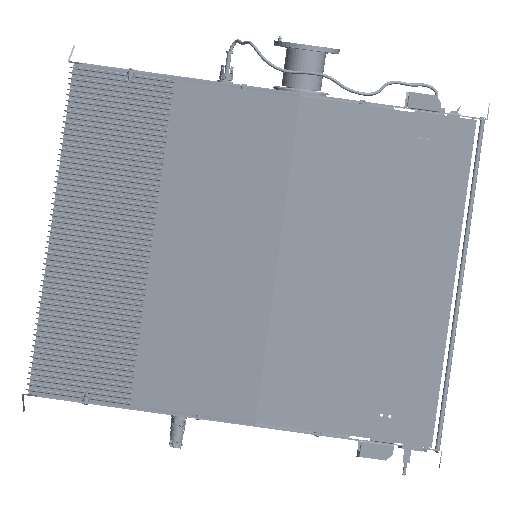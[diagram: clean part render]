
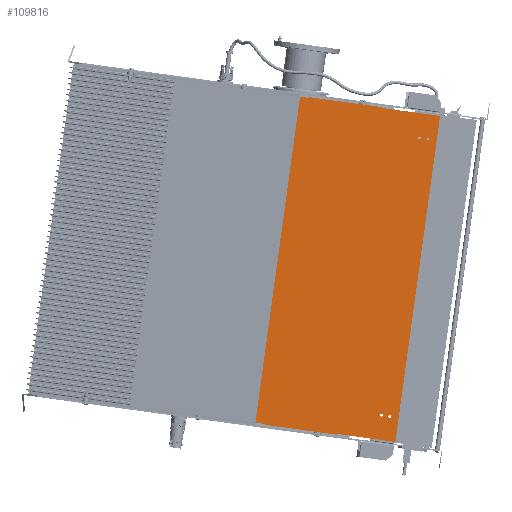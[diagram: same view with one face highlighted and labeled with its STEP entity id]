
A CAD part, left-side view. The second image highlights one B-rep face of the part: STEP entity #109816.
In plain terms, the highlighted planar face has unit normal (-1, 0, 0).
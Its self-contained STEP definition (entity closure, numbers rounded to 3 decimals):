
#3164=ELLIPSE('',#126035,0.109,0.109);
#3165=ELLIPSE('',#126037,0.109,0.109);
#3166=ELLIPSE('',#126039,0.109,0.109);
#3167=ELLIPSE('',#126041,0.109,0.109);
#5911=PLANE('',#126044);
#13274=LINE('',#253818,#22187);
#13282=LINE('',#253840,#22195);
#13292=LINE('',#253866,#22205);
#13300=LINE('',#253882,#22213);
#13309=LINE('',#253919,#22222);
#13312=LINE('',#253925,#22225);
#13313=LINE('',#253927,#22226);
#13314=LINE('',#253933,#22227);
#13315=LINE('',#253938,#22228);
#13316=LINE('',#253939,#22229);
#22187=VECTOR('',#146115,39.37);
#22195=VECTOR('',#146131,39.37);
#22205=VECTOR('',#146149,39.37);
#22213=VECTOR('',#146159,39.37);
#22222=VECTOR('',#146196,39.37);
#22225=VECTOR('',#146201,39.37);
#22226=VECTOR('',#146204,39.37);
#22227=VECTOR('',#146205,39.37);
#22228=VECTOR('',#146206,39.37);
#22229=VECTOR('',#146207,39.37);
#25597=B_SPLINE_CURVE_WITH_KNOTS('',3,(#253928,#253929,#253930,#253931),
 .UNSPECIFIED.,.F.,.F.,(4,4),(0.,1.),.UNSPECIFIED.);
#25598=B_SPLINE_CURVE_WITH_KNOTS('',3,(#253934,#253935,#253936,#253937),
 .UNSPECIFIED.,.F.,.F.,(4,4),(0.,1.),.UNSPECIFIED.);
#49911=ORIENTED_EDGE('',*,*,#71389,.T.);
#49912=ORIENTED_EDGE('',*,*,#71390,.T.);
#49913=ORIENTED_EDGE('',*,*,#71391,.T.);
#49914=ORIENTED_EDGE('',*,*,#71392,.T.);
#49915=ORIENTED_EDGE('',*,*,#71380,.T.);
#49916=ORIENTED_EDGE('',*,*,#71401,.T.);
#49917=ORIENTED_EDGE('',*,*,#71350,.T.);
#49918=ORIENTED_EDGE('',*,*,#71402,.T.);
#49919=ORIENTED_EDGE('',*,*,#71403,.T.);
#49920=ORIENTED_EDGE('',*,*,#71400,.T.);
#49921=ORIENTED_EDGE('',*,*,#71372,.T.);
#49922=ORIENTED_EDGE('',*,*,#71404,.F.);
#49923=ORIENTED_EDGE('',*,*,#71360,.F.);
#49924=ORIENTED_EDGE('',*,*,#71405,.F.);
#49925=ORIENTED_EDGE('',*,*,#71397,.T.);
#49926=ORIENTED_EDGE('',*,*,#71406,.F.);
#71350=EDGE_CURVE('',#85175,#85176,#13274,.T.);
#71360=EDGE_CURVE('',#85185,#85186,#13282,.T.);
#71372=EDGE_CURVE('',#85197,#85196,#13292,.T.);
#71380=EDGE_CURVE('',#85199,#85203,#13300,.T.);
#71389=EDGE_CURVE('',#85210,#85210,#3164,.F.);
#71390=EDGE_CURVE('',#85211,#85211,#3165,.F.);
#71391=EDGE_CURVE('',#85212,#85212,#3166,.F.);
#71392=EDGE_CURVE('',#85213,#85213,#3167,.F.);
#71397=EDGE_CURVE('',#85218,#85217,#13309,.T.);
#71400=EDGE_CURVE('',#85219,#85197,#13312,.T.);
#71401=EDGE_CURVE('',#85203,#85175,#13313,.T.);
#71402=EDGE_CURVE('',#85176,#85220,#25597,.T.);
#71403=EDGE_CURVE('',#85220,#85219,#13314,.T.);
#71404=EDGE_CURVE('',#85186,#85196,#25598,.T.);
#71405=EDGE_CURVE('',#85218,#85185,#13315,.T.);
#71406=EDGE_CURVE('',#85199,#85217,#13316,.T.);
#85175=VERTEX_POINT('',#253819);
#85176=VERTEX_POINT('',#253820);
#85185=VERTEX_POINT('',#253841);
#85186=VERTEX_POINT('',#253842);
#85196=VERTEX_POINT('',#253865);
#85197=VERTEX_POINT('',#253867);
#85199=VERTEX_POINT('',#253872);
#85203=VERTEX_POINT('',#253881);
#85210=VERTEX_POINT('',#253900);
#85211=VERTEX_POINT('',#253903);
#85212=VERTEX_POINT('',#253906);
#85213=VERTEX_POINT('',#253909);
#85217=VERTEX_POINT('',#253918);
#85218=VERTEX_POINT('',#253920);
#85219=VERTEX_POINT('',#253924);
#85220=VERTEX_POINT('',#253932);
#95910=EDGE_LOOP('',(#49911));
#95911=EDGE_LOOP('',(#49912));
#95912=EDGE_LOOP('',(#49913));
#95913=EDGE_LOOP('',(#49914));
#95914=EDGE_LOOP('',(#49915,#49916,#49917,#49918,#49919,#49920,#49921,#49922,
#49923,#49924,#49925,#49926));
#102536=FACE_BOUND('',#95910,.T.);
#102537=FACE_BOUND('',#95911,.T.);
#102538=FACE_BOUND('',#95912,.T.);
#102539=FACE_BOUND('',#95913,.T.);
#102540=FACE_BOUND('',#95914,.T.);
#109816=ADVANCED_FACE('',(#102536,#102537,#102538,#102539,#102540),#5911,
 .T.);
#126035=AXIS2_PLACEMENT_3D('',#253899,#146176,#146177);
#126037=AXIS2_PLACEMENT_3D('',#253902,#146180,#146181);
#126039=AXIS2_PLACEMENT_3D('',#253905,#146184,#146185);
#126041=AXIS2_PLACEMENT_3D('',#253908,#146188,#146189);
#126044=AXIS2_PLACEMENT_3D('',#253926,#146202,#146203);
#146115=DIRECTION('',(0.,-0.991,-0.136));
#146131=DIRECTION('',(0.,-0.991,-0.136));
#146149=DIRECTION('',(0.,0.991,0.136));
#146159=DIRECTION('',(0.,-0.991,-0.136));
#146176=DIRECTION('',(-1.,0.,0.));
#146177=DIRECTION('',(0.,0.991,0.136));
#146180=DIRECTION('',(-1.,0.,0.));
#146181=DIRECTION('',(0.,0.991,0.136));
#146184=DIRECTION('',(-1.,0.,0.));
#146185=DIRECTION('',(0.,0.991,0.136));
#146188=DIRECTION('',(-1.,0.,0.));
#146189=DIRECTION('',(0.,0.991,0.136));
#146196=DIRECTION('',(0.,0.991,0.136));
#146201=DIRECTION('',(0.,-0.136,0.991));
#146202=DIRECTION('',(-1.,0.,0.));
#146203=DIRECTION('',(0.,-0.991,-0.136));
#146204=DIRECTION('',(0.,0.136,-0.991));
#146205=DIRECTION('',(0.,-0.991,-0.136));
#146206=DIRECTION('',(0.,-0.136,0.991));
#146207=DIRECTION('',(0.,-0.136,0.991));
#253818=CARTESIAN_POINT('',(-0.446,12.005,1.683));
#253819=CARTESIAN_POINT('',(-0.446,12.005,1.683));
#253820=CARTESIAN_POINT('',(-0.446,6.309,0.902));
#253840=CARTESIAN_POINT('',(-0.446,8.469,27.442));
#253841=CARTESIAN_POINT('',(-0.446,8.469,27.442));
#253842=CARTESIAN_POINT('',(-0.446,2.773,26.66));
#253865=CARTESIAN_POINT('',(-0.446,2.782,26.598));
#253866=CARTESIAN_POINT('',(-0.446,-1.803,25.969));
#253867=CARTESIAN_POINT('',(-0.446,-1.803,25.969));
#253872=CARTESIAN_POINT('',(-0.446,12.727,1.846));
#253881=CARTESIAN_POINT('',(-0.446,11.996,1.745));
#253882=CARTESIAN_POINT('',(-0.446,12.727,1.846));
#253899=CARTESIAN_POINT('',(-0.446,-0.199,24.233));
#253900=CARTESIAN_POINT('',(-0.446,-0.091,24.248));
#253902=CARTESIAN_POINT('',(-0.446,-0.843,24.145));
#253903=CARTESIAN_POINT('',(-0.446,-0.735,24.16));
#253905=CARTESIAN_POINT('',(-0.446,2.792,2.438));
#253906=CARTESIAN_POINT('',(-0.446,2.901,2.453));
#253908=CARTESIAN_POINT('',(-0.446,2.148,2.349));
#253909=CARTESIAN_POINT('',(-0.446,2.257,2.364));
#253918=CARTESIAN_POINT('',(-0.446,9.208,27.48));
#253919=CARTESIAN_POINT('',(-0.446,-1.803,25.969));
#253920=CARTESIAN_POINT('',(-0.446,8.477,27.38));
#253924=CARTESIAN_POINT('',(-0.446,1.715,0.334));
#253925=CARTESIAN_POINT('',(-0.446,1.715,0.334));
#253926=CARTESIAN_POINT('',(-0.446,12.727,1.846));
#253927=CARTESIAN_POINT('',(-0.446,11.996,1.745));
#253928=CARTESIAN_POINT('',(-0.446,6.309,0.902));
#253929=CARTESIAN_POINT('',(-0.446,6.306,0.922));
#253930=CARTESIAN_POINT('',(-0.446,6.303,0.943));
#253931=CARTESIAN_POINT('',(-0.446,6.3,0.964));
#253932=CARTESIAN_POINT('',(-0.446,6.3,0.964));
#253933=CARTESIAN_POINT('',(-0.446,12.727,1.846));
#253934=CARTESIAN_POINT('',(-0.446,2.773,26.66));
#253935=CARTESIAN_POINT('',(-0.446,2.776,26.639));
#253936=CARTESIAN_POINT('',(-0.446,2.779,26.619));
#253937=CARTESIAN_POINT('',(-0.446,2.782,26.598));
#253938=CARTESIAN_POINT('',(-0.446,8.477,27.38));
#253939=CARTESIAN_POINT('',(-0.446,12.727,1.846));
